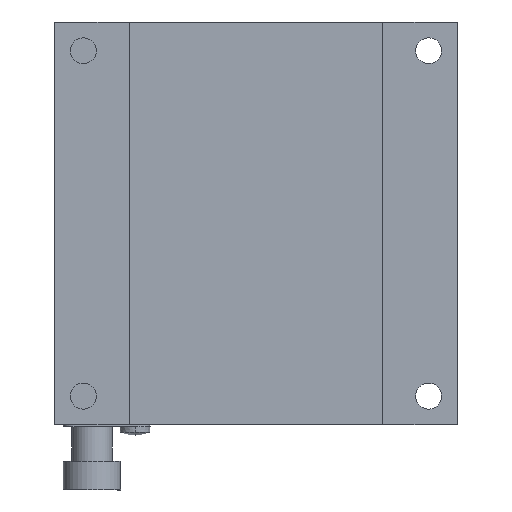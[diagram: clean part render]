
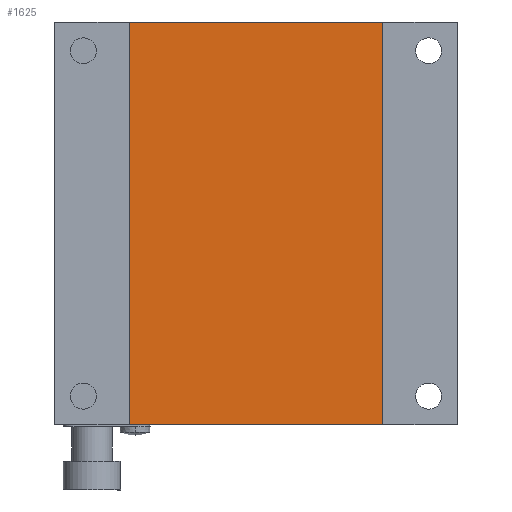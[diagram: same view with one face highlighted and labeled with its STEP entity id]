
A CAD part, front view. The second image highlights one B-rep face of the part: STEP entity #1625.
In plain terms, the highlighted planar face has unit normal (0, -1, 0).
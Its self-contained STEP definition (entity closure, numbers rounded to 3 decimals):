
#1625 = ADVANCED_FACE ( 'NONE', ( #2879 ), #2878, .F. ) ;
#1626 = ORIENTED_EDGE ( 'NONE', *, *, #8639, .F. ) ;
#1628 = EDGE_LOOP ( 'NONE', ( #1632, #1642, #1626, #1640 ) ) ;
#1632 = ORIENTED_EDGE ( 'NONE', *, *, #2106, .T. ) ;
#1636 = EDGE_CURVE ( 'NONE', #8625, #5106, #2863, .T. ) ;
#1639 = EDGE_CURVE ( 'NONE', #8500, #2087, #2859, .T. ) ;
#1640 = ORIENTED_EDGE ( 'NONE', *, *, #1639, .T. ) ;
#1642 = ORIENTED_EDGE ( 'NONE', *, *, #1636, .F. ) ;
#2087 = VERTEX_POINT ( 'NONE', #3701 ) ;
#2106 = EDGE_CURVE ( 'NONE', #2087, #5106, #3746, .T. ) ;
#2856 = DIRECTION ( 'NONE',  ( 0., 0., -1. ) ) ;
#2857 = VECTOR ( 'NONE', #2856, 1000. ) ;
#2858 = CARTESIAN_POINT ( 'NONE',  ( -22., 0.5, 35. ) ) ;
#2859 = LINE ( 'NONE', #2858, #2857 ) ;
#2860 = DIRECTION ( 'NONE',  ( 0., 0., -1. ) ) ;
#2861 = VECTOR ( 'NONE', #2860, 1000. ) ;
#2862 = CARTESIAN_POINT ( 'NONE',  ( 22., 0.5, 35. ) ) ;
#2863 = LINE ( 'NONE', #2862, #2861 ) ;
#2874 = DIRECTION ( 'NONE',  ( 0., 0., 1. ) ) ;
#2875 = DIRECTION ( 'NONE',  ( 0., 1., 0. ) ) ;
#2876 = CARTESIAN_POINT ( 'NONE',  ( -22., 0.5, 35. ) ) ;
#2877 = AXIS2_PLACEMENT_3D ( 'NONE', #2876, #2875, #2874 ) ;
#2878 = PLANE ( 'NONE',  #2877 ) ;
#2879 = FACE_OUTER_BOUND ( 'NONE', #1628, .T. ) ;
#3701 = CARTESIAN_POINT ( 'NONE',  ( -22., 0.5, -35. ) ) ;
#3743 = DIRECTION ( 'NONE',  ( 1., 0., 0. ) ) ;
#3744 = VECTOR ( 'NONE', #3743, 1000. ) ;
#3745 = CARTESIAN_POINT ( 'NONE',  ( -22., 0.5, -35. ) ) ;
#3746 = LINE ( 'NONE', #3745, #3744 ) ;
#5106 = VERTEX_POINT ( 'NONE', #7030 ) ;
#7030 = CARTESIAN_POINT ( 'NONE',  ( 22., 0.5, -35. ) ) ;
#7563 = CARTESIAN_POINT ( 'NONE',  ( -22., 0.5, 35. ) ) ;
#7759 = CARTESIAN_POINT ( 'NONE',  ( 22., 0.5, 35. ) ) ;
#7794 = DIRECTION ( 'NONE',  ( 1., 0., 0. ) ) ;
#7795 = VECTOR ( 'NONE', #7794, 1000. ) ;
#7796 = CARTESIAN_POINT ( 'NONE',  ( -22., 0.5, 35. ) ) ;
#7797 = LINE ( 'NONE', #7796, #7795 ) ;
#8500 = VERTEX_POINT ( 'NONE', #7563 ) ;
#8625 = VERTEX_POINT ( 'NONE', #7759 ) ;
#8639 = EDGE_CURVE ( 'NONE', #8500, #8625, #7797, .T. ) ;
